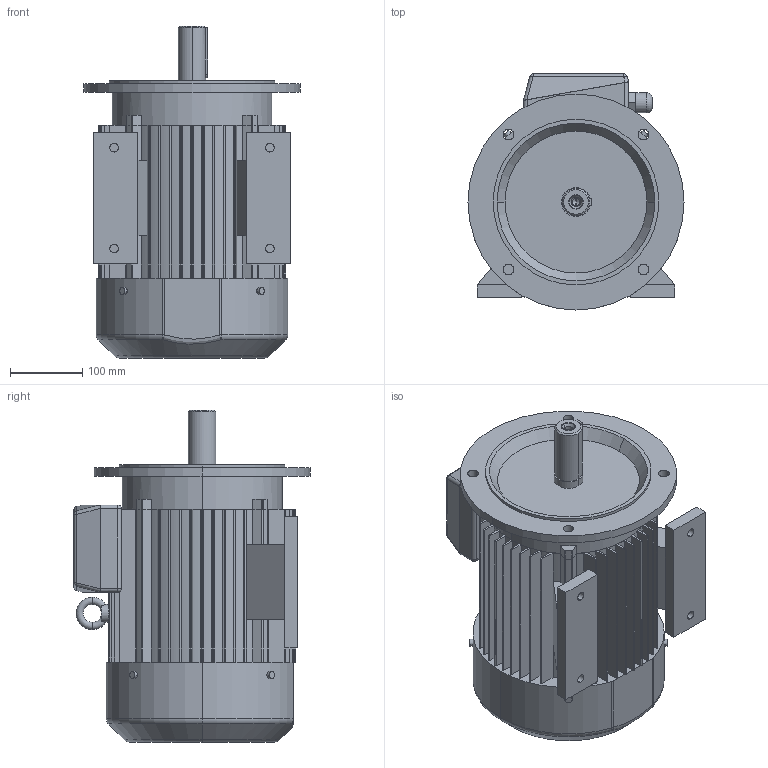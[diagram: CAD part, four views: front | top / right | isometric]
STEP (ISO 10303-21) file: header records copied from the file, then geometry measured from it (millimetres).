
FILE_DESCRIPTION (( 'STEP AP203' ), '1' );
FILE_NAME ('2SIEL132S2A,6.STEP', '2012-10-29T07:59:20', ( 'INDUKTA' ), ( 'CANTONI MOTOR' ), 'SwSTEP 2.0', 'SolidWorks 2003064', '' );
FILE_SCHEMA (( 'CONFIG_CONTROL_DESIGN' ));
Length unit declared in the file: millimetre
Products named in the file (1): 2SIEL132S2A,6
Bounding box: 300 x 328 x 461 mm (x, y, z)
Volume: 19038233.4 mm3; surface area: 1081912.2 mm2
Topology: 14 solids, 14 shells, 417 faces, 1104 edges, 702 vertices
Faces by surface type: cylinder 191, plane 188, cone 14, torus 13, sphere 10, bspline 1
Entity records: 13729 total; most frequent: CARTESIAN_POINT 3078, DIRECTION 2309, ORIENTED_EDGE 2184, EDGE_CURVE 1092, AXIS2_PLACEMENT_3D 837, VERTEX_POINT 702, LINE 635, VECTOR 635
